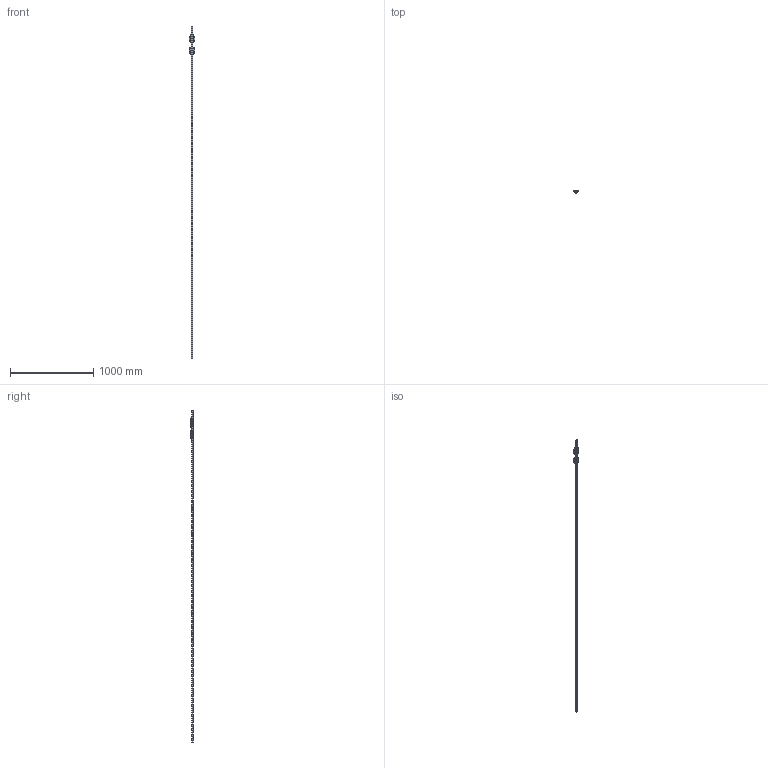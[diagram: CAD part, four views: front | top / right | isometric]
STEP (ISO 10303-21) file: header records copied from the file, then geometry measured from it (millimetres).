
FILE_DESCRIPTION((''),'2;1');
FILE_NAME('ASM0022_ASM','2020-11-24T14:16:20',('TWVS2025'),(''),'CREO PARAMETRIC BY PTC INC, 2018420','CREO PARAMETRIC BY PTC INC, 2018420','');
FILE_SCHEMA(('CONFIG_CONTROL_DESIGN'));
Products named in the file (5): BRR20_CUSTOMER_1_1_1_2_1_1; BC-BRC20-LA_ASM_1_ASM_1_1_ASM_2; BC-BRD20-LA-ASM_ASM_1_1_ASM_1_1; ASM0005_ASM_1_1_ASM; ASM0022_ASM
Assembly tree (4 placements, depth 3):
  ASM0022_ASM
    ASM0005_ASM_1_1_ASM
      BRR20_CUSTOMER_1_1_1_2_1_1
      BC-BRC20-LA_ASM_1_ASM_1_1_ASM_2
      BC-BRD20-LA-ASM_ASM_1_1_ASM_1_1
Bounding box: 62.95 x 30 x 4000 mm (x, y, z)
Volume: 1199351.6 mm3; surface area: 412267.5 mm2
Topology: 1 solids, 10 shells, 4621 faces, 13036 edges, 8429 vertices
Faces by surface type: plane 1984, cylinder 1330, cone 722, torus 322, bspline 221, sphere 20, revolution 12, extrusion 10
Entity records: 205914 total; most frequent: CARTESIAN_POINT 89189, ORIENTED_EDGE 25825, DIRECTION 22534, EDGE_CURVE 12992, VERTEX_POINT 8429, AXIS2_PLACEMENT_3D 7905, VECTOR 6712, LINE 6702
